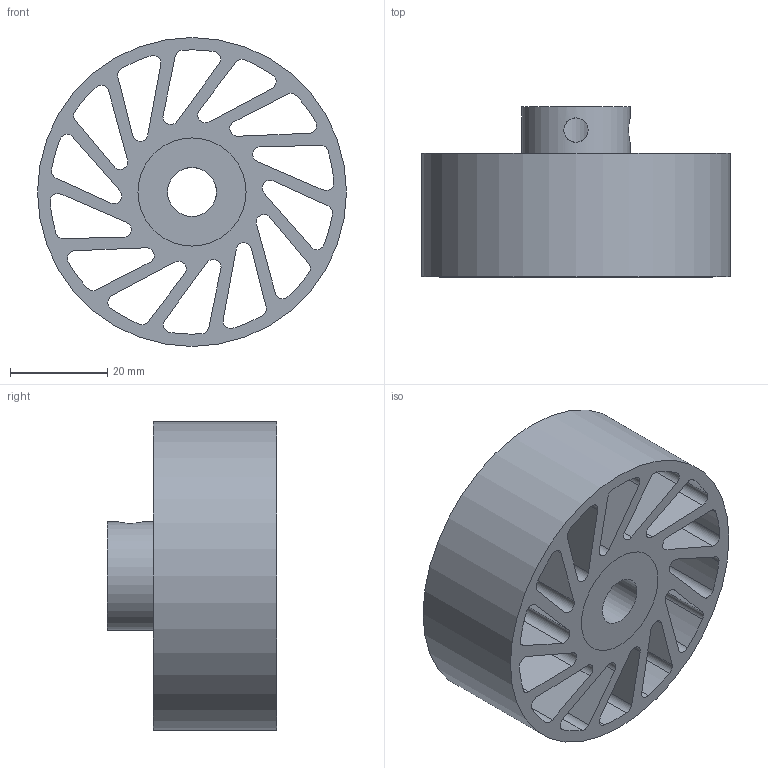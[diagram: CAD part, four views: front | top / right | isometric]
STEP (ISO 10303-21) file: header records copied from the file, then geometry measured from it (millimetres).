
FILE_DESCRIPTION(/* description */ (''),/* implementation_level */ '2;1');
FILE_NAME(/* name */ 'NCWM-310-XXX-YYY.stp',/* time_stamp */ '2023-02-02T16:03:55-06:00',/* author */ ('AG'),/* organization */ ('Meridian Laboratory'),/* preprocessor_version */ 'ST-DEVELOPER v18.1',/* originating_system */ 'Autodesk Inventor 2022',/* authorisation */ '');
FILE_SCHEMA (('AUTOMOTIVE_DESIGN { 1 0 10303 214 3 1 1 }'));
Length unit declared in the file: millimetre
Products named in the file (1): NCWM-300
Bounding box: 63.5 x 34.92 x 63.5 mm (x, y, z)
Volume: 45799.7 mm3; surface area: 29265.7 mm2
Topology: 2 solids, 2 shells, 94 faces, 276 edges, 186 vertices
Faces by surface type: cylinder 62, plane 32
Full cylindrical faces by diameter (mm): 5 x2, 10.025 x1, 22.225 x2, 63.5 x1
Entity records: 3536 total; most frequent: CARTESIAN_POINT 697, DIRECTION 576, ORIENTED_EDGE 552, EDGE_CURVE 276, AXIS2_PLACEMENT_3D 215, VERTEX_POINT 186, LINE 146, VECTOR 146
